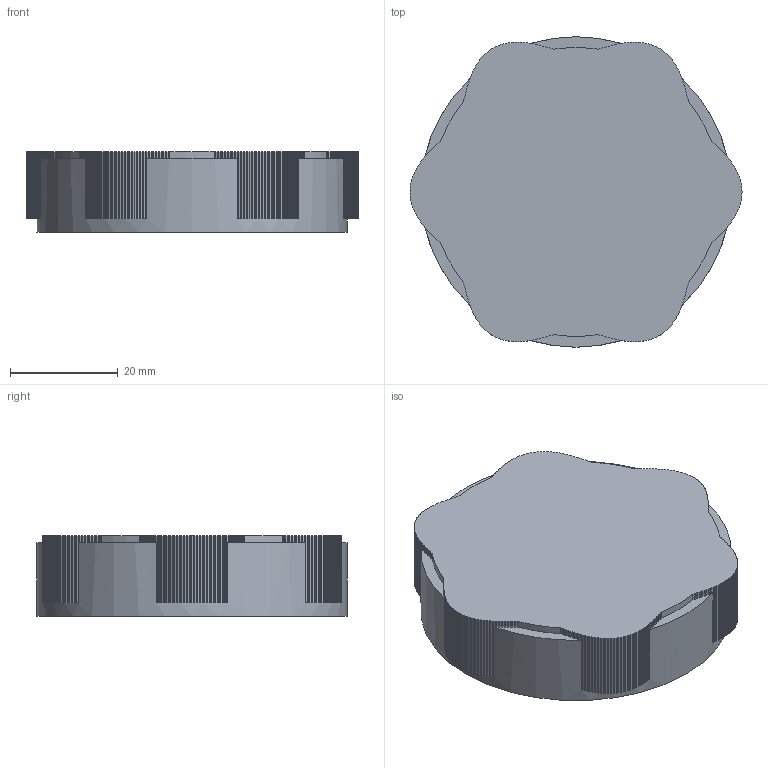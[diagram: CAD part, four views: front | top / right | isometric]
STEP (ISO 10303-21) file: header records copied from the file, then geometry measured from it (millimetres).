
FILE_DESCRIPTION(('Open CASCADE Model'),'2;1');
FILE_NAME('Open CASCADE Shape Model','2026-11-13T04:59:59',('Author'),( 'Open CASCADE'),'Open CASCADE STEP processor 7.9','Open CASCADE 7.9' ,'Unknown');
FILE_SCHEMA(('AUTOMOTIVE_DESIGN { 1 0 10303 214 1 1 1 1 }'));
Length unit declared in the file: millimetre
Products named in the file (1): Open CASCADE STEP translator 7.9 6
Bounding box: 61.6 x 57.6 x 15 mm (x, y, z)
Volume: 12322.8 mm3; surface area: 10703.8 mm2
Topology: 1 solids, 1 shells, 555 faces, 1647 edges, 1098 vertices
Faces by surface type: plane 542, cylinder 13
Full cylindrical faces by diameter (mm): 50 x1, 51.95 x1, 57.6 x1
Entity records: 39198 total; most frequent: CARTESIAN_POINT 7127, DIRECTION 5609, LINE 4393, VECTOR 4393, ORIENTED_EDGE 3294, PCURVE 3294, DEFINITIONAL_REPRESENTATION 3294, EDGE_CURVE 1647
